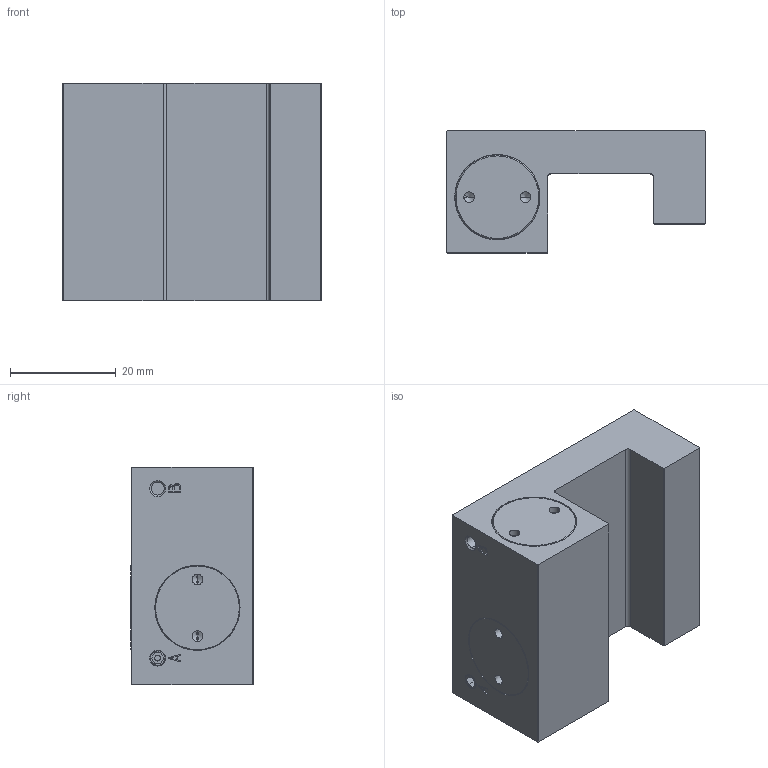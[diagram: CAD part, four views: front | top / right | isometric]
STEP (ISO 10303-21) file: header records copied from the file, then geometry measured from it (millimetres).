
FILE_DESCRIPTION( ( '' ), '1' );
FILE_NAME( 'E:/04 嬴檜蠱滌/0404 ZIMMER/040414 ZIMMER CAD download/MCP/MCP2001A---.stp', '2020-04-16T10:02:48', ( '' ), ( '' ), ' ', ' ', ' ' );
FILE_SCHEMA( ( 'automotive_design' ) );
Length unit declared in the file: millimetre
Products named in the file (1): 1
Bounding box: 48.7 x 23.05 x 41 mm (x, y, z)
Volume: 31350.7 mm3; surface area: 8761.4 mm2
Topology: 1 solids, 1 shells, 114 faces, 268 edges, 168 vertices
Faces by surface type: plane 60, cylinder 32, cone 22
Entity records: 6272 total; most frequent: DIRECTION 570, STYLED_ITEM 543, PRESENTATION_STYLE_ASSIGNMENT 543, CARTESIAN_POINT 543, COLOUR_RGB 543, ORIENTED_EDGE 520, EDGE_CURVE 260, CURVE_STYLE 260
